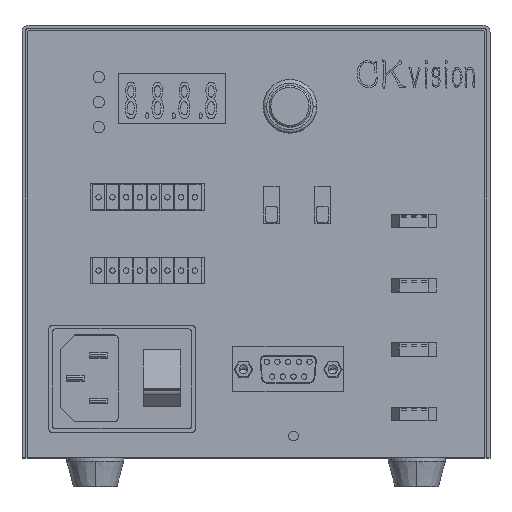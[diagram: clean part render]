
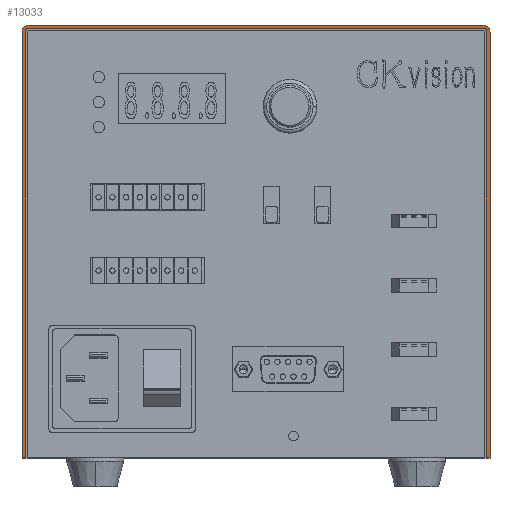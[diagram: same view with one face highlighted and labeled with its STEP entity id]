
A CAD part, top view. The second image highlights one B-rep face of the part: STEP entity #13033.
In plain terms, the highlighted planar face has unit normal (0, 0, 1).
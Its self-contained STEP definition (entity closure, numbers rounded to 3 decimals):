
#36 = ORIENTED_EDGE ( 'NONE', *, *, #5621, .T. ) ;
#344 = ORIENTED_EDGE ( 'NONE', *, *, #30479, .T. ) ;
#994 = CARTESIAN_POINT ( 'NONE',  ( -65.5, 0., 50. ) ) ;
#1308 = VECTOR ( 'NONE', #5654, 1000. ) ;
#3989 = PLANE ( 'NONE',  #18572 ) ;
#5449 = VECTOR ( 'NONE', #13368, 1000. ) ;
#5621 = EDGE_CURVE ( 'NONE', #16097, #30082, #29348, .T. ) ;
#5654 = DIRECTION ( 'NONE',  ( 0., 1., 0. ) ) ;
#5879 = EDGE_CURVE ( 'NONE', #24849, #12667, #26781, .T. ) ;
#5940 = DIRECTION ( 'NONE',  ( -1., 0., 0. ) ) ;
#6017 = CARTESIAN_POINT ( 'NONE',  ( 64.5, 120., 50. ) ) ;
#6241 = VERTEX_POINT ( 'NONE', #25091 ) ;
#6254 = ORIENTED_EDGE ( 'NONE', *, *, #27314, .T. ) ;
#6301 = CARTESIAN_POINT ( 'NONE',  ( -64.5, 120., 50. ) ) ;
#7128 = DIRECTION ( 'NONE',  ( 1., 0., 0. ) ) ;
#7363 = DIRECTION ( 'NONE',  ( 0., -1., 0. ) ) ;
#8089 = CARTESIAN_POINT ( 'NONE',  ( 65.5, 121., 50. ) ) ;
#8261 = ORIENTED_EDGE ( 'NONE', *, *, #19072, .T. ) ;
#8453 = VERTEX_POINT ( 'NONE', #16483 ) ;
#10101 = CARTESIAN_POINT ( 'NONE',  ( -63.5, 121., 50. ) ) ;
#10621 = EDGE_LOOP ( 'NONE', ( #17366, #20322, #6254, #18388, #19668, #15697, #35777, #36, #22437, #8261, #344, #26663 ) ) ;
#11011 = EDGE_CURVE ( 'NONE', #34467, #32514, #25729, .T. ) ;
#11547 = DIRECTION ( 'NONE',  ( 0., 0., -1. ) ) ;
#12155 = CARTESIAN_POINT ( 'NONE',  ( -64.5, 0., 50. ) ) ;
#12238 = VECTOR ( 'NONE', #36276, 1000. ) ;
#12470 = DIRECTION ( 'NONE',  ( 1., 0., 0. ) ) ;
#12635 = DIRECTION ( 'NONE',  ( 1., 0., 0. ) ) ;
#12667 = VERTEX_POINT ( 'NONE', #12155 ) ;
#13033 = ADVANCED_FACE ( 'NONE', ( #27123 ), #3989, .T. ) ;
#13190 = CARTESIAN_POINT ( 'NONE',  ( -65.5, 121., 50. ) ) ;
#13368 = DIRECTION ( 'NONE',  ( 0., 1., 0. ) ) ;
#14445 = EDGE_CURVE ( 'NONE', #34467, #12667, #17338, .T. ) ;
#15309 = VERTEX_POINT ( 'NONE', #18492 ) ;
#15464 = CARTESIAN_POINT ( 'NONE',  ( 0., 0., 50. ) ) ;
#15697 = ORIENTED_EDGE ( 'NONE', *, *, #11011, .T. ) ;
#16097 = VERTEX_POINT ( 'NONE', #36038 ) ;
#16105 = VECTOR ( 'NONE', #12470, 1000. ) ;
#16483 = CARTESIAN_POINT ( 'NONE',  ( 65.5, 119., 50. ) ) ;
#17338 = LINE ( 'NONE', #32211, #33685 ) ;
#17366 = ORIENTED_EDGE ( 'NONE', *, *, #24604, .T. ) ;
#17372 = VERTEX_POINT ( 'NONE', #29433 ) ;
#17572 = DIRECTION ( 'NONE',  ( 1., 0., 0. ) ) ;
#18108 = VECTOR ( 'NONE', #35304, 1000. ) ;
#18265 = CARTESIAN_POINT ( 'NONE',  ( -64.5, 119.5, 50. ) ) ;
#18388 = ORIENTED_EDGE ( 'NONE', *, *, #5879, .T. ) ;
#18492 = CARTESIAN_POINT ( 'NONE',  ( 63.5, 121., 50. ) ) ;
#18572 = AXIS2_PLACEMENT_3D ( 'NONE', #15464, #24673, #24308 ) ;
#18619 = CARTESIAN_POINT ( 'NONE',  ( -64., 119.5, 50. ) ) ;
#19072 = EDGE_CURVE ( 'NONE', #6241, #17372, #36075, .T. ) ;
#19668 = ORIENTED_EDGE ( 'NONE', *, *, #14445, .F. ) ;
#19899 = EDGE_CURVE ( 'NONE', #8453, #15309, #25518, .T. ) ;
#19999 = VECTOR ( 'NONE', #7363, 1000. ) ;
#20078 = CARTESIAN_POINT ( 'NONE',  ( -65.5, 121., 50. ) ) ;
#20322 = ORIENTED_EDGE ( 'NONE', *, *, #27200, .T. ) ;
#20590 = DIRECTION ( 'NONE',  ( 0., 0., 1. ) ) ;
#20837 = EDGE_CURVE ( 'NONE', #16097, #32514, #20987, .T. ) ;
#20987 = LINE ( 'NONE', #6301, #18108 ) ;
#21454 = DIRECTION ( 'NONE',  ( 0., 0., -1. ) ) ;
#21726 = CARTESIAN_POINT ( 'NONE',  ( -65.5, 0., 50. ) ) ;
#22058 = LINE ( 'NONE', #13190, #19999 ) ;
#22437 = ORIENTED_EDGE ( 'NONE', *, *, #23024, .F. ) ;
#22794 = CARTESIAN_POINT ( 'NONE',  ( 63.5, 119., 50. ) ) ;
#23024 = EDGE_CURVE ( 'NONE', #6241, #30082, #31457, .T. ) ;
#23953 = CARTESIAN_POINT ( 'NONE',  ( -63.5, 119., 50. ) ) ;
#24032 = CARTESIAN_POINT ( 'NONE',  ( -65.5, 0., 50. ) ) ;
#24308 = DIRECTION ( 'NONE',  ( 1., 0., 0. ) ) ;
#24384 = CARTESIAN_POINT ( 'NONE',  ( 64.5, 119.5, 50. ) ) ;
#24604 = EDGE_CURVE ( 'NONE', #15309, #35461, #28900, .T. ) ;
#24673 = DIRECTION ( 'NONE',  ( 0., 0., 1. ) ) ;
#24849 = VERTEX_POINT ( 'NONE', #21726 ) ;
#25091 = CARTESIAN_POINT ( 'NONE',  ( 64.5, 0., 50. ) ) ;
#25518 = CIRCLE ( 'NONE', #33934, 2. ) ;
#25729 = CIRCLE ( 'NONE', #28737, 0.5 ) ;
#26233 = CARTESIAN_POINT ( 'NONE',  ( 64., 119.5, 50. ) ) ;
#26663 = ORIENTED_EDGE ( 'NONE', *, *, #19899, .T. ) ;
#26677 = AXIS2_PLACEMENT_3D ( 'NONE', #23953, #20590, #12635 ) ;
#26744 = VERTEX_POINT ( 'NONE', #33666 ) ;
#26781 = LINE ( 'NONE', #994, #16105 ) ;
#26921 = AXIS2_PLACEMENT_3D ( 'NONE', #26233, #11547, #17572 ) ;
#27123 = FACE_OUTER_BOUND ( 'NONE', #10621, .T. ) ;
#27200 = EDGE_CURVE ( 'NONE', #35461, #26744, #32093, .T. ) ;
#27314 = EDGE_CURVE ( 'NONE', #26744, #24849, #22058, .T. ) ;
#27638 = CARTESIAN_POINT ( 'NONE',  ( -64., 120., 50. ) ) ;
#28737 = AXIS2_PLACEMENT_3D ( 'NONE', #18619, #21454, #7128 ) ;
#28900 = LINE ( 'NONE', #20078, #34407 ) ;
#29348 = CIRCLE ( 'NONE', #26921, 0.5 ) ;
#29433 = CARTESIAN_POINT ( 'NONE',  ( 65.5, 0., 50. ) ) ;
#30082 = VERTEX_POINT ( 'NONE', #24384 ) ;
#30479 = EDGE_CURVE ( 'NONE', #17372, #8453, #36919, .T. ) ;
#31457 = LINE ( 'NONE', #6017, #1308 ) ;
#31659 = DIRECTION ( 'NONE',  ( 0., -1., 0. ) ) ;
#32093 = CIRCLE ( 'NONE', #26677, 2. ) ;
#32211 = CARTESIAN_POINT ( 'NONE',  ( -64.5, 120., 50. ) ) ;
#32514 = VERTEX_POINT ( 'NONE', #27638 ) ;
#33666 = CARTESIAN_POINT ( 'NONE',  ( -65.5, 119., 50. ) ) ;
#33685 = VECTOR ( 'NONE', #31659, 1000. ) ;
#33934 = AXIS2_PLACEMENT_3D ( 'NONE', #22794, #34273, #35214 ) ;
#34273 = DIRECTION ( 'NONE',  ( 0., 0., 1. ) ) ;
#34407 = VECTOR ( 'NONE', #5940, 1000. ) ;
#34467 = VERTEX_POINT ( 'NONE', #18265 ) ;
#35214 = DIRECTION ( 'NONE',  ( 1., 0., 0. ) ) ;
#35304 = DIRECTION ( 'NONE',  ( -1., 0., 0. ) ) ;
#35461 = VERTEX_POINT ( 'NONE', #10101 ) ;
#35777 = ORIENTED_EDGE ( 'NONE', *, *, #20837, .F. ) ;
#36038 = CARTESIAN_POINT ( 'NONE',  ( 64., 120., 50. ) ) ;
#36075 = LINE ( 'NONE', #24032, #12238 ) ;
#36276 = DIRECTION ( 'NONE',  ( 1., 0., 0. ) ) ;
#36919 = LINE ( 'NONE', #8089, #5449 ) ;
